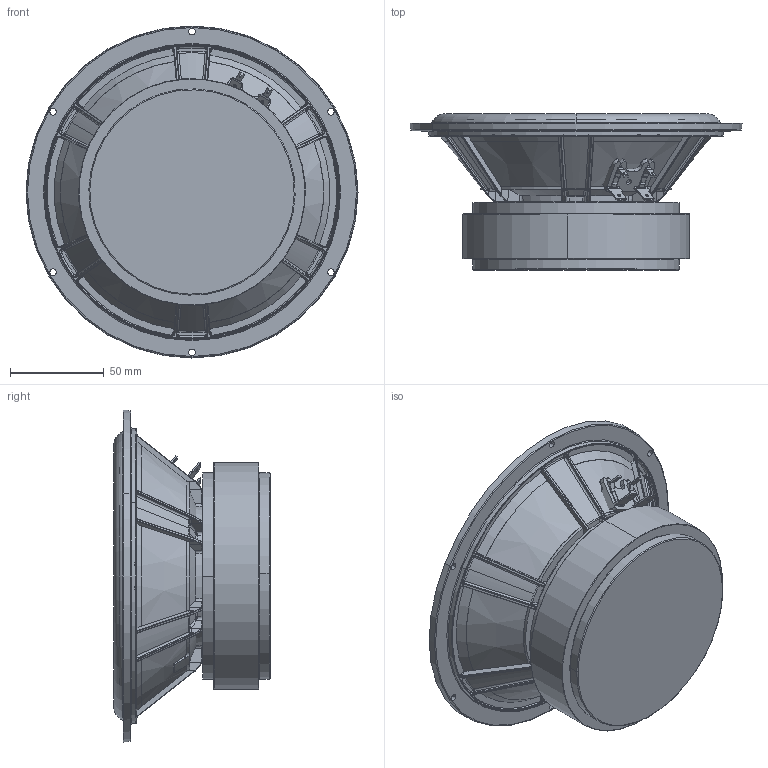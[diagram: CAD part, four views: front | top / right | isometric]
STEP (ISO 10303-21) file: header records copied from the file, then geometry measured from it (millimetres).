
FILE_DESCRIPTION (( 'STEP AP214' ), '1' );
FILE_NAME ('18W-8542-10.STEP', '2020-12-17T10:15:00', ( '' ), ( '' ), 'SwSTEP 2.0', 'SolidWorks 2019', '' );
FILE_SCHEMA (( 'AUTOMOTIVE_DESIGN' ));
Length unit declared in the file: millimetre
Products named in the file (1): 18W-8542-10
Bounding box: 177 x 83.23 x 177 mm (x, y, z)
Volume: 802196.6 mm3; surface area: 119969.2 mm2
Topology: 4 solids, 7 shells, 1234 faces, 3067 edges, 1821 vertices
Faces by surface type: bspline 396, cylinder 299, plane 272, torus 127, cone 108, sphere 32
Entity records: 57596 total; most frequent: CARTESIAN_POINT 18110, ORIENTED_EDGE 6066, DIRECTION 4843, EDGE_CURVE 3033, AXIS2_PLACEMENT_3D 1930, VERTEX_POINT 1821, EDGE_LOOP 1266, ADVANCED_FACE 1234
